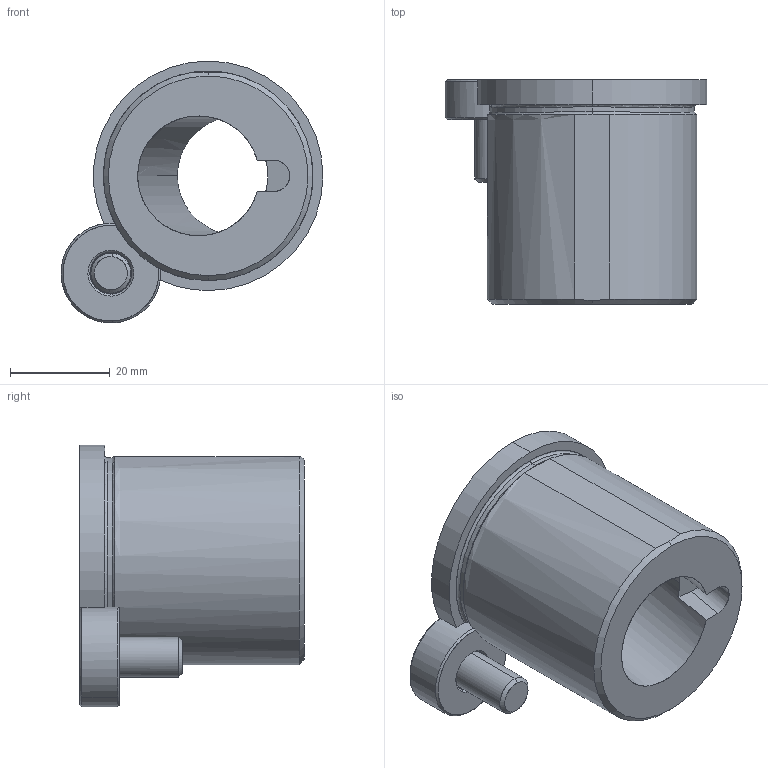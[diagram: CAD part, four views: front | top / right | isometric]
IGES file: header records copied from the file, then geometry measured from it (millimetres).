
Start section: START RECORD GO HERE.
Global section: file name: gr424546-10.igs; native system: DASSAULT SYSTEMES CATIA V5 R20 - www.3ds.com; preprocessor: CATIA Version 5 Release 20 ; author: Utente; organization: NB04-ASUS; date: 20201108.075457; units: millimetre
Bounding box: 52.48 x 45 x 52.48 mm (x, y, z)
Surface area: 14096.4 mm2 (no closed solid volume)
Topology: 0 solids, 0 shells, 75 faces, 342 edges, 340 vertices
Faces by surface type: revolution 50, plane 25
